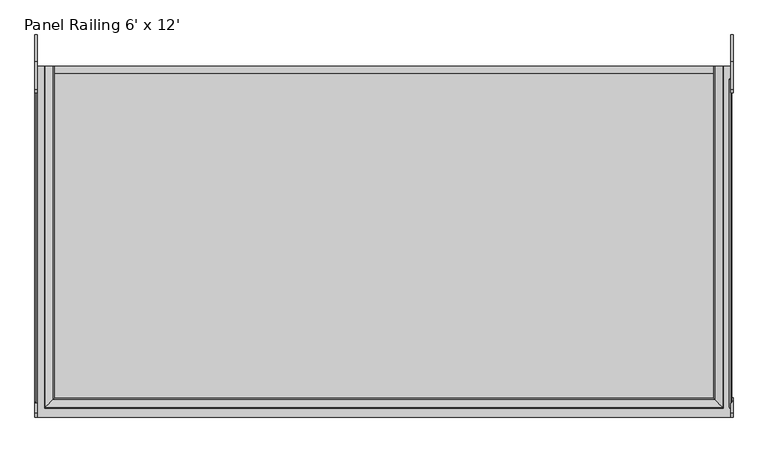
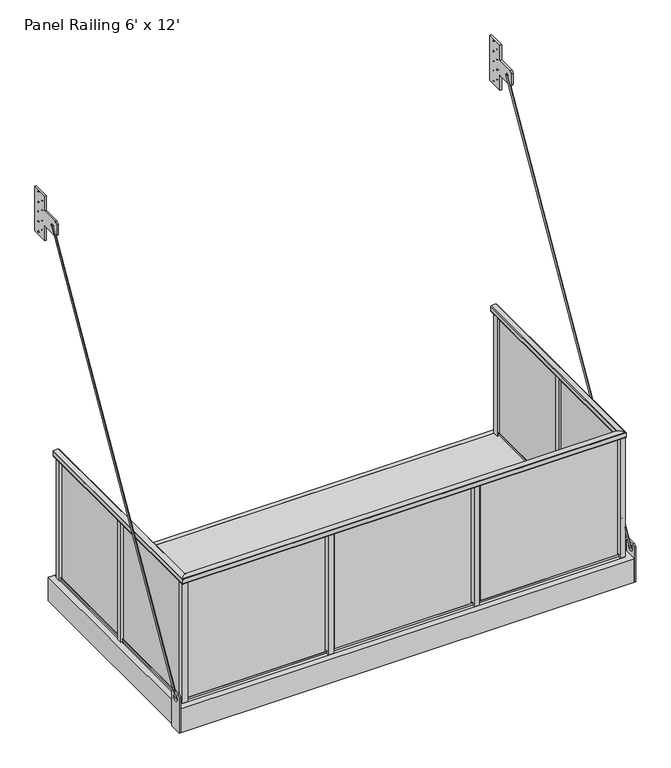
"""IFC4 building model written with IfcOpenShell, lengths in millimetres: proxy geometry, Specialty-Equipment_Endurable-Building-Products_Standard-Balcony : Panel Railing 6' x 12'."""

from ifc_helpers import new_model, si_unit, point, frame, frame_2d, origin, origin_2d, place, context, project, spatial, polyline, circle_curve, ellipse_curve, trimmed, segment, composite_curve, outline, extrude, source, transform, mapped, element, save
from ifc_brep_helpers import plane_surface, cylinder_surface, advanced_brep


def panel_railing_6_x_12_2e06ce5a(model_context):
    return source(origin(), model_context, "Body", "SolidModel", [
        extrude(outline(polyline([(25.1129964, 3238.5), (164.8129964, 3238.5), (164.8129964, 2857.5), (25.1129964, 2857.5), (25.1129964, 2984.5), (-120.9370036, 2984.5), (-139.9870036, 3003.55), (-139.9870036, 3092.45), (-120.9370036, 3111.5), (25.1129964, 3111.5), (25.1129964, 3238.5)]), holes=[composite_curve([segment(trimmed(circle_curve(frame_2d((-69.85, 3048.0)), 6.35), [point((-63.5, 3048.0))], [point((-76.2, 3048.0))], True, "CARTESIAN"), True, "CONTINUOUS"), segment(trimmed(circle_curve(frame_2d((-69.85, 3048.0)), 6.35), [point((-76.2, 3048.0))], [point((-63.5, 3048.0))], True, "CARTESIAN"), True, "CONTINUOUS")], self_intersect=False), composite_curve([segment(trimmed(circle_curve(frame_2d((120.3629964, 3048.0)), 2.38125), [point((122.7442464, 3048.0))], [point((117.9817464, 3048.0))], True, "CARTESIAN"), True, "CONTINUOUS"), segment(trimmed(circle_curve(frame_2d((120.3629964, 3048.0)), 2.38125), [point((117.9817464, 3048.0))], [point((122.7442464, 3048.0))], True, "CARTESIAN"), True, "CONTINUOUS")], self_intersect=False), composite_curve([segment(trimmed(circle_curve(frame_2d((120.3629964, 3219.45)), 2.38125), [point((122.7442464, 3219.45))], [point((117.9817464, 3219.45))], True, "CARTESIAN"), True, "CONTINUOUS"), segment(trimmed(circle_curve(frame_2d((120.3629964, 3219.45)), 2.38125), [point((117.9817464, 3219.45))], [point((122.7442464, 3219.45))], True, "CARTESIAN"), True, "CONTINUOUS")], self_intersect=False), composite_curve([segment(trimmed(circle_curve(frame_2d((120.3629964, 2876.55)), 2.38125), [point((122.7442464, 2876.55))], [point((117.9817464, 2876.55))], True, "CARTESIAN"), True, "CONTINUOUS"), segment(trimmed(circle_curve(frame_2d((120.3629964, 2876.55)), 2.38125), [point((117.9817464, 2876.55))], [point((122.7442464, 2876.55))], True, "CARTESIAN"), True, "CONTINUOUS")], self_intersect=False), composite_curve([segment(trimmed(circle_curve(frame_2d((120.3629964, 2965.45)), 2.38125), [point((122.7442464, 2965.45))], [point((117.9817464, 2965.45))], True, "CARTESIAN"), True, "CONTINUOUS"), segment(trimmed(circle_curve(frame_2d((120.3629964, 2965.45)), 2.38125), [point((117.9817464, 2965.45))], [point((122.7442464, 2965.45))], True, "CARTESIAN"), True, "CONTINUOUS")], self_intersect=False), composite_curve([segment(trimmed(circle_curve(frame_2d((120.3629964, 3130.55)), 2.38125), [point((122.7442464, 3130.55))], [point((117.9817464, 3130.55))], True, "CARTESIAN"), True, "CONTINUOUS"), segment(trimmed(circle_curve(frame_2d((120.3629964, 3130.55)), 2.38125), [point((117.9817464, 3130.55))], [point((122.7442464, 3130.55))], True, "CARTESIAN"), True, "CONTINUOUS")], self_intersect=False), composite_curve([segment(trimmed(circle_curve(frame_2d((69.5629964, 3092.45)), 2.38125), [point((71.9442464, 3092.45))], [point((67.1817464, 3092.45))], True, "CARTESIAN"), True, "CONTINUOUS"), segment(trimmed(circle_curve(frame_2d((69.5629964, 3092.45)), 2.38125), [point((67.1817464, 3092.45))], [point((71.9442464, 3092.45))], True, "CARTESIAN"), True, "CONTINUOUS")], self_intersect=False), composite_curve([segment(trimmed(circle_curve(frame_2d((69.5629964, 3175.0)), 2.38125), [point((71.9442464, 3175.0))], [point((67.1817464, 3175.0))], True, "CARTESIAN"), True, "CONTINUOUS"), segment(trimmed(circle_curve(frame_2d((69.5629964, 3175.0)), 2.38125), [point((67.1817464, 3175.0))], [point((71.9442464, 3175.0))], True, "CARTESIAN"), True, "CONTINUOUS")], self_intersect=False), composite_curve([segment(trimmed(circle_curve(frame_2d((69.5629964, 3003.55)), 2.38125), [point((71.9442464, 3003.55))], [point((67.1817464, 3003.55))], True, "CARTESIAN"), True, "CONTINUOUS"), segment(trimmed(circle_curve(frame_2d((69.5629964, 3003.55)), 2.38125), [point((67.1817464, 3003.55))], [point((71.9442464, 3003.55))], True, "CARTESIAN"), True, "CONTINUOUS")], self_intersect=False), composite_curve([segment(trimmed(circle_curve(frame_2d((69.5629964, 2921.0)), 2.38125), [point((71.9442464, 2921.0))], [point((67.1817464, 2921.0))], True, "CARTESIAN"), True, "CONTINUOUS"), segment(trimmed(circle_curve(frame_2d((69.5629964, 2921.0)), 2.38125), [point((67.1817464, 2921.0))], [point((71.9442464, 2921.0))], True, "CARTESIAN"), True, "CONTINUOUS")], self_intersect=False)]), frame((-1841.5, 0.0, 0.0), z_axis=(1.0, 0.0, 0.0), x_axis=(0.0, 1.0, 0.0)), (0.0, 0.0, 1.0), 12.7),
        extrude(outline(polyline([(25.1129964, 3238.5), (164.8129964, 3238.5), (164.8129964, 2857.5), (25.1129964, 2857.5), (25.1129964, 2984.5), (-120.9370036, 2984.5), (-139.9870036, 3003.55), (-139.9870036, 3092.45), (-120.9370036, 3111.5), (25.1129964, 3111.5), (25.1129964, 3238.5)]), holes=[composite_curve([segment(trimmed(circle_curve(frame_2d((-69.85, 3048.0)), 6.35), [point((-63.5, 3048.0))], [point((-76.2, 3048.0))], True, "CARTESIAN"), True, "CONTINUOUS"), segment(trimmed(circle_curve(frame_2d((-69.85, 3048.0)), 6.35), [point((-76.2, 3048.0))], [point((-63.5, 3048.0))], True, "CARTESIAN"), True, "CONTINUOUS")], self_intersect=False), composite_curve([segment(trimmed(circle_curve(frame_2d((120.3629964, 3048.0)), 2.38125), [point((122.7442464, 3048.0))], [point((117.9817464, 3048.0))], True, "CARTESIAN"), True, "CONTINUOUS"), segment(trimmed(circle_curve(frame_2d((120.3629964, 3048.0)), 2.38125), [point((117.9817464, 3048.0))], [point((122.7442464, 3048.0))], True, "CARTESIAN"), True, "CONTINUOUS")], self_intersect=False), composite_curve([segment(trimmed(circle_curve(frame_2d((120.3629964, 3219.45)), 2.38125), [point((122.7442464, 3219.45))], [point((117.9817464, 3219.45))], True, "CARTESIAN"), True, "CONTINUOUS"), segment(trimmed(circle_curve(frame_2d((120.3629964, 3219.45)), 2.38125), [point((117.9817464, 3219.45))], [point((122.7442464, 3219.45))], True, "CARTESIAN"), True, "CONTINUOUS")], self_intersect=False), composite_curve([segment(trimmed(circle_curve(frame_2d((120.3629964, 2876.55)), 2.38125), [point((122.7442464, 2876.55))], [point((117.9817464, 2876.55))], True, "CARTESIAN"), True, "CONTINUOUS"), segment(trimmed(circle_curve(frame_2d((120.3629964, 2876.55)), 2.38125), [point((117.9817464, 2876.55))], [point((122.7442464, 2876.55))], True, "CARTESIAN"), True, "CONTINUOUS")], self_intersect=False), composite_curve([segment(trimmed(circle_curve(frame_2d((120.3629964, 2965.45)), 2.38125), [point((122.7442464, 2965.45))], [point((117.9817464, 2965.45))], True, "CARTESIAN"), True, "CONTINUOUS"), segment(trimmed(circle_curve(frame_2d((120.3629964, 2965.45)), 2.38125), [point((117.9817464, 2965.45))], [point((122.7442464, 2965.45))], True, "CARTESIAN"), True, "CONTINUOUS")], self_intersect=False), composite_curve([segment(trimmed(circle_curve(frame_2d((120.3629964, 3130.55)), 2.38125), [point((122.7442464, 3130.55))], [point((117.9817464, 3130.55))], True, "CARTESIAN"), True, "CONTINUOUS"), segment(trimmed(circle_curve(frame_2d((120.3629964, 3130.55)), 2.38125), [point((117.9817464, 3130.55))], [point((122.7442464, 3130.55))], True, "CARTESIAN"), True, "CONTINUOUS")], self_intersect=False), composite_curve([segment(trimmed(circle_curve(frame_2d((69.5629964, 3092.45)), 2.38125), [point((71.9442464, 3092.45))], [point((67.1817464, 3092.45))], True, "CARTESIAN"), True, "CONTINUOUS"), segment(trimmed(circle_curve(frame_2d((69.5629964, 3092.45)), 2.38125), [point((67.1817464, 3092.45))], [point((71.9442464, 3092.45))], True, "CARTESIAN"), True, "CONTINUOUS")], self_intersect=False), composite_curve([segment(trimmed(circle_curve(frame_2d((69.5629964, 3175.0)), 2.38125), [point((71.9442464, 3175.0))], [point((67.1817464, 3175.0))], True, "CARTESIAN"), True, "CONTINUOUS"), segment(trimmed(circle_curve(frame_2d((69.5629964, 3175.0)), 2.38125), [point((67.1817464, 3175.0))], [point((71.9442464, 3175.0))], True, "CARTESIAN"), True, "CONTINUOUS")], self_intersect=False), composite_curve([segment(trimmed(circle_curve(frame_2d((69.5629964, 3003.55)), 2.38125), [point((71.9442464, 3003.55))], [point((67.1817464, 3003.55))], True, "CARTESIAN"), True, "CONTINUOUS"), segment(trimmed(circle_curve(frame_2d((69.5629964, 3003.55)), 2.38125), [point((67.1817464, 3003.55))], [point((71.9442464, 3003.55))], True, "CARTESIAN"), True, "CONTINUOUS")], self_intersect=False), composite_curve([segment(trimmed(circle_curve(frame_2d((69.5629964, 2921.0)), 2.38125), [point((71.9442464, 2921.0))], [point((67.1817464, 2921.0))], True, "CARTESIAN"), True, "CONTINUOUS"), segment(trimmed(circle_curve(frame_2d((69.5629964, 2921.0)), 2.38125), [point((67.1817464, 2921.0))], [point((71.9442464, 2921.0))], True, "CARTESIAN"), True, "CONTINUOUS")], self_intersect=False)]), frame((1828.8, 0.0, 0.0), z_axis=(1.0, 0.0, 0.0), x_axis=(0.0, 1.0, 0.0)), (0.0, 0.0, 1.0), 12.7),
        extrude(outline(polyline([(-1850.23125, -203.2), (-1850.23125, 96.7382813), (-1831.18125, 115.7882813), (-1767.68125, 115.7882813), (-1748.63125, 96.7382813), (-1748.63125, -203.2), (-1850.23125, -203.2)]), holes=[composite_curve([segment(trimmed(circle_curve(frame_2d((-1799.43125, 64.9882813)), 25.4), [point((-1824.83125, 64.9882813))], [point((-1774.03125, 64.9882813))], True, "CARTESIAN"), True, "CONTINUOUS"), segment(trimmed(circle_curve(frame_2d((-1799.43125, 64.9882813)), 25.4), [point((-1774.03125, 64.9882813))], [point((-1824.83125, 64.9882813))], True, "CARTESIAN"), True, "CONTINUOUS")], self_intersect=False)]), frame((-1841.5, 0.0, 0.0), z_axis=(1.0, 0.0, 0.0), x_axis=(0.0, 1.0, 0.0)), (0.0, 0.0, 1.0), 12.7),
        extrude(outline(polyline([(-1850.23125, -203.2), (-1850.23125, 96.7382812), (-1831.18125, 115.7882812), (-1767.68125, 115.7882812), (-1748.63125, 96.7382812), (-1748.63125, -203.2), (-1850.23125, -203.2)]), holes=[composite_curve([segment(trimmed(circle_curve(frame_2d((-1799.43125, 64.9882812)), 25.4), [point((-1824.83125, 64.9882812))], [point((-1774.03125, 64.9882812))], True, "CARTESIAN"), True, "CONTINUOUS"), segment(trimmed(circle_curve(frame_2d((-1799.43125, 64.9882812)), 25.4), [point((-1774.03125, 64.9882812))], [point((-1824.83125, 64.9882812))], True, "CARTESIAN"), True, "CONTINUOUS")], self_intersect=False)]), frame((1828.8, 0.0, 0.0), z_axis=(1.0, 0.0, 0.0), x_axis=(0.0, 1.0, 0.0)), (0.0, 0.0, 1.0), 12.7),
        extrude(outline(polyline([(1202.8714286, -38.1), (1202.8714286, -1799.43125), (1164.7714286, -1799.43125), (1164.7714286, -38.1), (1202.8714286, -38.1)])), frame((0.0, 0.0, -203.2), z_axis=(0.0, 0.0, 1.0), x_axis=(1.0, 0.0, 0.0)), (0.0, 0.0, 1.0), 177.8),
        extrude(outline(polyline([(729.3428571, -38.1), (729.3428571, -1799.43125), (691.2428571, -1799.43125), (691.2428571, -38.1), (729.3428571, -38.1)])), frame((0.0, 0.0, -203.2), z_axis=(0.0, 0.0, 1.0), x_axis=(1.0, 0.0, 0.0)), (0.0, 0.0, 1.0), 177.8),
        extrude(outline(polyline([(255.8142857, -38.1), (255.8142857, -1799.43125), (217.7142857, -1799.43125), (217.7142857, -38.1), (255.8142857, -38.1)])), frame((0.0, 0.0, -203.2), z_axis=(0.0, 0.0, 1.0), x_axis=(1.0, 0.0, 0.0)), (0.0, 0.0, 1.0), 177.8),
        extrude(outline(polyline([(-217.7142857, -38.1), (-217.7142857, -1799.43125), (-255.8142857, -1799.43125), (-255.8142857, -38.1), (-217.7142857, -38.1)])), frame((0.0, 0.0, -203.2), z_axis=(0.0, 0.0, 1.0), x_axis=(1.0, 0.0, 0.0)), (0.0, 0.0, 1.0), 177.8),
        extrude(outline(polyline([(-691.2428571, -38.1), (-691.2428571, -1799.43125), (-729.3428571, -1799.43125), (-729.3428571, -38.1), (-691.2428571, -38.1)])), frame((0.0, 0.0, -203.2), z_axis=(0.0, 0.0, 1.0), x_axis=(1.0, 0.0, 0.0)), (0.0, 0.0, 1.0), 177.8),
        extrude(outline(polyline([(-1164.7714286, -38.1), (-1164.7714286, -1799.43125), (-1202.8714286, -1799.43125), (-1202.8714286, -38.1), (-1164.7714286, -38.1)])), frame((0.0, 0.0, -203.2), z_axis=(0.0, 0.0, 1.0), x_axis=(1.0, 0.0, 0.0)), (0.0, 0.0, 1.0), 177.8),
        extrude(outline(polyline([(1676.4, -38.1), (1676.4, -1799.43125), (1638.3, -1799.43125), (1638.3, -38.1), (1676.4, -38.1)])), frame((0.0, 0.0, -203.2), z_axis=(0.0, 0.0, 1.0), x_axis=(1.0, 0.0, 0.0)), (0.0, 0.0, 1.0), 177.8),
        extrude(outline(polyline([(1773.2375, -80.9625), (1773.2375, -897.334375), (1757.3625, -897.334375), (1757.3625, -80.9625), (1773.2375, -80.9625)])), frame((0.0, 0.0, 9.525), z_axis=(0.0, 0.0, 1.0), x_axis=(1.0, 0.0, 0.0)), (0.0, 0.0, 1.0), 15.875),
        extrude(outline(polyline([(1773.2375, -940.196875), (1773.2375, -1756.56875), (1757.3625, -1756.56875), (1757.3625, -940.196875), (1773.2375, -940.196875)])), frame((0.0, 0.0, 9.525), z_axis=(0.0, 0.0, 1.0), x_axis=(1.0, 0.0, 0.0)), (0.0, 0.0, 1.0), 15.875),
        extrude(outline(polyline([(-1773.2375, -80.9625), (-1757.3625, -80.9625), (-1757.3625, -897.334375), (-1773.2375, -897.334375), (-1773.2375, -80.9625)])), frame((0.0, 0.0, 9.525), z_axis=(0.0, 0.0, 1.0), x_axis=(1.0, 0.0, 0.0)), (0.0, 0.0, 1.0), 15.875),
        extrude(outline(polyline([(-1773.2375, -940.196875), (-1757.3625, -940.196875), (-1757.3625, -1756.56875), (-1773.2375, -1756.56875), (-1773.2375, -940.196875)])), frame((0.0, 0.0, 9.525), z_axis=(0.0, 0.0, 1.0), x_axis=(1.0, 0.0, 0.0)), (0.0, 0.0, 1.0), 15.875),
        extrude(outline(polyline([(-567.0020833, -1770.0625), (567.0020833, -1770.0625), (567.0020833, -1785.9375), (-567.0020833, -1785.9375), (-567.0020833, -1770.0625)])), frame((0.0, 0.0, 9.525), z_axis=(0.0, 0.0, 1.0), x_axis=(1.0, 0.0, 0.0)), (0.0, 0.0, 1.0), 15.875),
        extrude(outline(polyline([(-567.0020833, -1756.56875), (-567.0020833, -1799.43125), (-609.8645833, -1799.43125), (-609.8645833, -1756.56875), (-567.0020833, -1756.56875)])), frame((0.0, 0.0, -203.2), z_axis=(0.0, 0.0, 1.0), x_axis=(1.0, 0.0, 0.0)), (0.0, 0.0, 1.0), 1219.2),
        extrude(outline(polyline([(609.8645833, -1756.56875), (609.8645833, -1799.43125), (567.0020833, -1799.43125), (567.0020833, -1756.56875), (609.8645833, -1756.56875)])), frame((0.0, 0.0, -203.2), z_axis=(0.0, 0.0, 1.0), x_axis=(1.0, 0.0, 0.0)), (0.0, 0.0, 1.0), 1219.2),
        extrude(outline(polyline([(1743.86875, -38.1), (1786.73125, -38.1), (1786.73125, -80.9625), (1743.86875, -80.9625), (1743.86875, -38.1)])), frame((0.0, 0.0, -203.2), z_axis=(0.0, 0.0, 1.0), x_axis=(1.0, 0.0, 0.0)), (0.0, 0.0, 1.0), 1219.2),
        extrude(outline(polyline([(-1743.86875, -38.1), (-1743.86875, -80.9625), (-1786.73125, -80.9625), (-1786.73125, -38.1), (-1743.86875, -38.1)])), frame((0.0, 0.0, -203.2), z_axis=(0.0, 0.0, 1.0), x_axis=(1.0, 0.0, 0.0)), (0.0, 0.0, 1.0), 1219.2),
        extrude(outline(polyline([(1786.73125, -897.334375), (1786.73125, -940.196875), (1743.86875, -940.196875), (1743.86875, -897.334375), (1786.73125, -897.334375)])), frame((0.0, 0.0, -203.2), z_axis=(0.0, 0.0, 1.0), x_axis=(1.0, 0.0, 0.0)), (0.0, 0.0, 1.0), 1219.2),
        extrude(outline(polyline([(-1743.86875, -897.334375), (-1743.86875, -940.196875), (-1786.73125, -940.196875), (-1786.73125, -897.334375), (-1743.86875, -897.334375)])), frame((0.0, 0.0, -203.2), z_axis=(0.0, 0.0, 1.0), x_axis=(1.0, 0.0, 0.0)), (0.0, 0.0, 1.0), 1219.2),
        extrude(outline(polyline([(1778.0, 0.0), (1778.0, -38.1), (-1778.0, -38.1), (-1778.0, 0.0), (1778.0, 0.0)])), frame((0.0, 0.0, -203.2), z_axis=(0.0, 0.0, 1.0), x_axis=(1.0, 0.0, 0.0)), (0.0, 0.0, 1.0), 203.2),
        extrude(outline(polyline([(-1638.3, -38.1), (-1638.3, -1799.43125), (-1676.4, -1799.43125), (-1676.4, -38.1), (-1638.3, -38.1)])), frame((0.0, 0.0, -203.2), z_axis=(0.0, 0.0, 1.0), x_axis=(1.0, 0.0, 0.0)), (0.0, 0.0, 1.0), 177.8),
        extrude(outline(polyline([(-1743.86875, -1756.56875), (-1743.86875, -1799.43125), (-1786.73125, -1799.43125), (-1786.73125, -1756.56875), (-1743.86875, -1756.56875)])), frame((0.0, 0.0, -203.2), z_axis=(0.0, 0.0, 1.0), x_axis=(1.0, 0.0, 0.0)), (0.0, 0.0, 1.0), 1219.2),
        extrude(outline(polyline([(1786.73125, -1756.56875), (1786.73125, -1799.43125), (1743.86875, -1799.43125), (1743.86875, -1756.56875), (1786.73125, -1756.56875)])), frame((0.0, 0.0, -203.2), z_axis=(0.0, 0.0, 1.0), x_axis=(1.0, 0.0, 0.0)), (0.0, 0.0, 1.0), 1219.2),
        extrude(outline(polyline([(609.8645833, -1770.0625), (1743.86875, -1770.0625), (1743.86875, -1785.9375), (609.8645833, -1785.9375), (609.8645833, -1770.0625)])), frame((0.0, 0.0, 9.525), z_axis=(0.0, 0.0, 1.0), x_axis=(1.0, 0.0, 0.0)), (0.0, 0.0, 1.0), 15.875),
        extrude(outline(polyline([(-609.8645833, -1770.0625), (-609.8645833, -1785.9375), (-1743.86875, -1785.9375), (-1743.86875, -1770.0625), (-609.8645833, -1770.0625)])), frame((0.0, 0.0, 9.525), z_axis=(0.0, 0.0, 1.0), x_axis=(1.0, 0.0, 0.0)), (0.0, 0.0, 1.0), 15.875),
        extrude(outline(polyline([(-1778.0, -1799.43125), (-1778.0, -38.1), (1778.0, -38.1), (1778.0, -1799.43125), (-1778.0, -1799.43125)])), frame((0.0, 0.0, -25.4), z_axis=(0.0, 0.0, 1.0), x_axis=(1.0, 0.0, 0.0)), (0.0, 0.0, 1.0), 25.4),
        extrude(outline(composite_curve([segment(trimmed(circle_curve(frame_2d((-6.35, 0.0)), 6.35), [point((-6.35, 6.35))], [point((-6.35, -6.35))], False, "CARTESIAN"), True, "CONTINUOUS"), segment(trimmed(circle_curve(frame_2d((-6.35, 0.0)), 6.35), [point((-6.35, -6.35))], [point((-6.35, 6.35))], False, "CARTESIAN"), True, "CONTINUOUS")], self_intersect=False)), frame((-1828.8, -1799.43125, 64.9882812), z_axis=(0.0, 0.501595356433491, 0.8651023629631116), x_axis=(1.0, 0.0, 0.0)), (0.0, 0.0, 1.0), 3448.1604102),
        extrude(outline(composite_curve([segment(trimmed(circle_curve(origin_2d(), 6.35), [point((0.0, 6.35))], [point((0.0, -6.35))], False, "CARTESIAN"), True, "CONTINUOUS"), segment(trimmed(circle_curve(origin_2d(), 6.35), [point((0.0, -6.35))], [point((0.0, 6.35))], False, "CARTESIAN"), True, "CONTINUOUS")], self_intersect=False)), frame((1828.8, -1799.43125, 64.9882812), z_axis=(0.0, 0.5015953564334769, 0.8651023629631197), x_axis=(-1.0, 0.0, 0.0)), (0.0, 0.0, 1.0), 3448.1604102),
        extrude(outline(polyline([(-1828.8, 0.0), (-1778.0, 0.0), (-1778.0, -1799.43125), (1778.0, -1799.43125), (1778.0, 0.0), (1828.8, 0.0), (1828.8, -1850.23125), (-1828.8, -1850.23125), (-1828.8, 0.0)])), frame((0.0, 0.0, -203.2), z_axis=(0.0, 0.0, 1.0), x_axis=(1.0, 0.0, 0.0)), (0.0, 0.0, 1.0), 203.2),
        extrude(outline(polyline([(-547.9520833, -1770.0625), (547.9520833, -1770.0625), (547.9520833, -1785.9375), (-547.9520833, -1785.9375), (-547.9520833, -1770.0625)])), frame((0.0, 0.0, 25.4), z_axis=(0.0, 0.0, 1.0), x_axis=(1.0, 0.0, 0.0)), (0.0, 0.0, 1.0), 990.6),
        extrude(outline(polyline([(-1771.65, -883.046875), (-1771.65, -95.25), (-1758.95, -95.25), (-1758.95, -883.046875), (-1771.65, -883.046875)])), frame((0.0, 0.0, 25.4), z_axis=(0.0, 0.0, 1.0), x_axis=(1.0, 0.0, 0.0)), (0.0, 0.0, 1.0), 990.6),
        extrude(outline(polyline([(1771.65, -883.046875), (1758.95, -883.046875), (1758.95, -95.25), (1771.65, -95.25), (1771.65, -883.046875)])), frame((0.0, 0.0, 25.4), z_axis=(0.0, 0.0, 1.0), x_axis=(1.0, 0.0, 0.0)), (0.0, 0.0, 1.0), 990.6),
        advanced_brep(
        [(1790.7, 0.0, 1056.4003287), (1790.7, 0.0, 1022.35), (1784.35, 0.0, 1016.0), (1746.25, 0.0, 1016.0), (1739.9, 0.0, 1022.35), (1739.9, 0.0, 1056.4003287), (1743.6669492, 0.0, 1062.2012207), (1786.9330508, 0.0, 1062.2012207), (-1790.7, 0.0, 1056.4003287), (-1786.9330508, 0.0, 1062.2012207), (-1743.6669492, 0.0, 1062.2012207), (-1739.9, 0.0, 1056.4003287), (-1739.9, 0.0, 1022.35), (-1746.25, 0.0, 1016.0), (-1784.35, 0.0, 1016.0), (-1790.7, 0.0, 1022.35), (1790.7, -1803.4, 1056.4003287), (1790.7, -1803.4, 1022.35), (1784.35, -1797.05, 1016.0), (-1784.35, -1797.05, 1016.0), (-1746.25, -1758.95, 1016.0), (1746.25, -1758.95, 1016.0), (1739.9, -1752.6, 1022.35), (1739.9, -1752.6, 1056.4003287), (1743.6669492, -1756.3669492, 1062.2012207), (1786.9330508, -1799.6330508, 1062.2012207), (-1790.7, -1803.4, 1056.4003287), (-1790.7, -1803.4, 1022.35), (-1739.9, -1752.6, 1022.35), (-1739.9, -1752.6, 1056.4003287), (-1743.6669492, -1756.3669492, 1062.2012207), (-1786.9330508, -1799.6330508, 1062.2012207)],
        [
            (0, 1),
            (1, 2, circle_curve(frame((1784.35, 0.0, 1022.35), z_axis=(0.0, 1.0, 0.0), x_axis=(1.0, 0.0, 0.0)), 6.35)),
            (2, 3),
            (3, 4, circle_curve(frame((1746.25, 0.0, 1022.35), z_axis=(0.0, 1.0, 0.0), x_axis=(1.0, 0.0, 0.0)), 6.35)),
            (4, 5),
            (5, 6, circle_curve(frame((1746.25, 0.0, 1056.4003287), z_axis=(0.0, 1.0, 0.0), x_axis=(1.0, 0.0, 0.0)), 6.35)),
            (6, 7, circle_curve(frame((1765.3, 0.0, 1013.61875), z_axis=(0.0, 1.0, 0.0), x_axis=(1.0, 0.0, 0.0)), 53.18125)),
            (7, 0, circle_curve(frame((1784.35, 0.0, 1056.4003287), z_axis=(0.0, 1.0, 0.0), x_axis=(1.0, 0.0, 0.0)), 6.35)),
            (8, 9, circle_curve(frame((-1784.35, 0.0, 1056.4003287), z_axis=(0.0, 1.0, 0.0), x_axis=(-1.0, 0.0, 0.0)), 6.35)),
            (9, 10, circle_curve(frame((-1765.3, 0.0, 1013.61875), z_axis=(0.0, 1.0, 0.0), x_axis=(-1.0, 0.0, 0.0)), 53.18125)),
            (10, 11, circle_curve(frame((-1746.25, 0.0, 1056.4003287), z_axis=(0.0, 1.0, 0.0), x_axis=(-1.0, 0.0, 0.0)), 6.35)),
            (11, 12),
            (12, 13, circle_curve(frame((-1746.25, 0.0, 1022.35), z_axis=(0.0, 1.0, 0.0), x_axis=(-1.0, 0.0, 0.0)), 6.35)),
            (13, 14),
            (14, 15, circle_curve(frame((-1784.35, 0.0, 1022.35), z_axis=(0.0, 1.0, 0.0), x_axis=(-1.0, 0.0, 0.0)), 6.35)),
            (15, 8),
            (0, 16),
            (16, 17),
            (17, 1),
            (17, 18, ellipse_curve(frame((1784.35, -1797.05, 1022.35), z_axis=(0.7071067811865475, 0.7071067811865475, 0.0), x_axis=(-0.7071067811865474, 0.7071067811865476, 0.0)), 8.9802561, 6.35)),
            (18, 2),
            (18, 19),
            (19, 14),
            (13, 20),
            (20, 21),
            (21, 3),
            (21, 22, ellipse_curve(frame((1746.25, -1758.95, 1022.35), z_axis=(0.7071067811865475, 0.7071067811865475, 0.0), x_axis=(-0.7071067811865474, 0.7071067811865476, 0.0)), 8.9802561, 6.35)),
            (22, 4),
            (22, 23),
            (23, 5),
            (23, 24, ellipse_curve(frame((1746.25, -1758.95, 1056.4003287), z_axis=(0.7071067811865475, 0.7071067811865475, 0.0), x_axis=(-0.7071067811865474, 0.7071067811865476, 0.0)), 8.9802561, 6.35)),
            (24, 6),
            (24, 25, ellipse_curve(frame((1765.3, -1778.0, 1013.61875), z_axis=(0.7071067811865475, 0.7071067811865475, 0.0), x_axis=(-0.7071067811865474, 0.7071067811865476, 0.0)), 75.209645, 53.18125)),
            (25, 7),
            (25, 16, ellipse_curve(frame((1784.35, -1797.05, 1056.4003287), z_axis=(0.7071067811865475, 0.7071067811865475, 0.0), x_axis=(-0.7071067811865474, 0.7071067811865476, 0.0)), 8.9802561, 6.35)),
            (16, 26),
            (26, 27),
            (27, 17),
            (27, 19, ellipse_curve(frame((-1784.35, -1797.05, 1022.35), z_axis=(0.7071067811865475, -0.7071067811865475, 0.0), x_axis=(0.7071067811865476, 0.7071067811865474, 0.0)), 8.9802561, 6.35)),
            (20, 28, ellipse_curve(frame((-1746.25, -1758.95, 1022.35), z_axis=(0.7071067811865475, -0.7071067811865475, 0.0), x_axis=(0.7071067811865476, 0.7071067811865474, 0.0)), 8.9802561, 6.35)),
            (28, 22),
            (28, 29),
            (29, 23),
            (29, 30, ellipse_curve(frame((-1746.25, -1758.95, 1056.4003287), z_axis=(0.7071067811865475, -0.7071067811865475, 0.0), x_axis=(0.7071067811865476, 0.7071067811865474, 0.0)), 8.9802561, 6.35)),
            (30, 24),
            (30, 31, ellipse_curve(frame((-1765.3, -1778.0, 1013.61875), z_axis=(0.7071067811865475, -0.7071067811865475, 0.0), x_axis=(0.7071067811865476, 0.7071067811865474, 0.0)), 75.209645, 53.18125)),
            (31, 25),
            (31, 26, ellipse_curve(frame((-1784.35, -1797.05, 1056.4003287), z_axis=(0.7071067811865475, -0.7071067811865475, 0.0), x_axis=(0.7071067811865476, 0.7071067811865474, 0.0)), 8.9802561, 6.35)),
            (26, 8),
            (15, 27),
            (12, 28),
            (11, 29),
            (10, 30),
            (9, 31),
        ],
        [
            plane_surface(frame((1765.3, 0.0, 0.0), z_axis=(0.0, 1.0, 0.0), x_axis=(0.0, 0.0, 1.0))),
            plane_surface(frame((-1765.3, 0.0, 0.0), z_axis=(0.0, 1.0, 0.0), x_axis=(0.0, 0.0, 1.0))),
            plane_surface(frame((1790.7, 0.0, 1056.4003287), z_axis=(1.0, 0.0, 0.0), x_axis=(0.0, -1.0, 0.0))),
            cylinder_surface(frame((1784.35, 0.0, 1022.35), z_axis=(0.0, 1.0, 0.0), x_axis=(1.0, 0.0, 0.0)), 6.35),
            plane_surface(frame((1784.35, 0.0, 1016.0), z_axis=(0.0, 0.0, -1.0), x_axis=(0.0, -1.0, 0.0))),
            cylinder_surface(frame((1746.25, 0.0, 1022.35), z_axis=(0.0, 1.0, 0.0), x_axis=(1.0, 0.0, 0.0)), 6.35),
            plane_surface(frame((1739.9, 0.0, 1022.35), z_axis=(-1.0, 0.0, 0.0), x_axis=(0.0, -1.0, 0.0))),
            cylinder_surface(frame((1746.25, 0.0, 1056.4003287), z_axis=(0.0, 1.0, 0.0), x_axis=(1.0, 0.0, 0.0)), 6.35),
            cylinder_surface(frame((1765.3, 0.0, 1013.61875), z_axis=(0.0, 1.0, 0.0), x_axis=(1.0, 0.0, 0.0)), 53.18125),
            cylinder_surface(frame((1784.35, 0.0, 1056.4003287), z_axis=(0.0, 1.0, 0.0), x_axis=(1.0, 0.0, 0.0)), 6.35),
            plane_surface(frame((1790.7, -1803.4, 1056.4003287), z_axis=(0.0, -1.0, 0.0), x_axis=(-1.0, 0.0, 0.0))),
            cylinder_surface(frame((1765.3, -1797.05, 1022.35), z_axis=(1.0, 0.0, 0.0), x_axis=(0.0, -1.0, 0.0)), 6.35),
            cylinder_surface(frame((1765.3, -1758.95, 1022.35), z_axis=(1.0, 0.0, 0.0), x_axis=(0.0, -1.0, 0.0)), 6.35),
            plane_surface(frame((1739.9, -1752.6, 1022.35), z_axis=(0.0, 1.0, 0.0), x_axis=(-1.0, 0.0, 0.0))),
            cylinder_surface(frame((1765.3, -1758.95, 1056.4003287), z_axis=(1.0, 0.0, 0.0), x_axis=(0.0, -1.0, 0.0)), 6.35),
            cylinder_surface(frame((1765.3, -1778.0, 1013.61875), z_axis=(1.0, 0.0, 0.0), x_axis=(0.0, -1.0, 0.0)), 53.18125),
            cylinder_surface(frame((1765.3, -1797.05, 1056.4003287), z_axis=(1.0, 0.0, 0.0), x_axis=(0.0, -1.0, 0.0)), 6.35),
            plane_surface(frame((-1790.7, -1803.4, 1056.4003287), z_axis=(-1.0, 0.0, 0.0), x_axis=(0.0, 1.0, 0.0))),
            cylinder_surface(frame((-1784.35, -1778.0, 1022.35), z_axis=(0.0, -1.0, 0.0), x_axis=(-1.0, 0.0, 0.0)), 6.35),
            cylinder_surface(frame((-1746.25, -1778.0, 1022.35), z_axis=(0.0, -1.0, 0.0), x_axis=(-1.0, 0.0, 0.0)), 6.35),
            plane_surface(frame((-1739.9, -1752.6, 1022.35), z_axis=(1.0, 0.0, 0.0), x_axis=(0.0, 1.0, 0.0))),
            cylinder_surface(frame((-1746.25, -1778.0, 1056.4003287), z_axis=(0.0, -1.0, 0.0), x_axis=(-1.0, 0.0, 0.0)), 6.35),
            cylinder_surface(frame((-1765.3, -1778.0, 1013.61875), z_axis=(0.0, -1.0, 0.0), x_axis=(-1.0, 0.0, 0.0)), 53.18125),
            cylinder_surface(frame((-1784.35, -1778.0, 1056.4003287), z_axis=(0.0, -1.0, 0.0), x_axis=(-1.0, 0.0, 0.0)), 6.35),
        ],
        [
            (0, [[1, 2, 3, 4, 5, 6, 7, 8]]),
            (1, [[9, 10, 11, 12, 13, 14, 15, 16]]),
            (2, [[-1, 17, 18, 19]]),
            (3, [[-2, -19, 20, 21]]),
            (4, [[-3, -21, 22, 23, -14, 24, 25, 26]]),
            (5, [[-4, -26, 27, 28]]),
            (6, [[-5, -28, 29, 30]]),
            (7, [[-6, -30, 31, 32]]),
            (8, [[-7, -32, 33, 34]]),
            (9, [[-8, -34, 35, -17]]),
            (10, [[-18, 36, 37, 38]]),
            (11, [[-20, -38, 39, -22]]),
            (12, [[-27, -25, 40, 41]]),
            (13, [[-29, -41, 42, 43]]),
            (14, [[-31, -43, 44, 45]]),
            (15, [[-33, -45, 46, 47]]),
            (16, [[-35, -47, 48, -36]]),
            (17, [[-37, 49, -16, 50]]),
            (18, [[-39, -50, -15, -23]]),
            (19, [[-40, -24, -13, 51]]),
            (20, [[-42, -51, -12, 52]]),
            (21, [[-44, -52, -11, 53]]),
            (22, [[-46, -53, -10, 54]]),
            (23, [[-48, -54, -9, -49]]),
        ],
    ),
        extrude(outline(polyline([(628.9145833, -1785.9375), (628.9145833, -1770.0625), (1729.58125, -1770.0625), (1729.58125, -1785.9375), (628.9145833, -1785.9375)])), frame((0.0, 0.0, 25.4), z_axis=(0.0, 0.0, 1.0), x_axis=(1.0, 0.0, 0.0)), (0.0, 0.0, 1.0), 990.6),
        extrude(outline(polyline([(-1729.58125, -1770.0625), (-628.9145833, -1770.0625), (-628.9145833, -1785.9375), (-1729.58125, -1785.9375), (-1729.58125, -1770.0625)])), frame((0.0, 0.0, 25.4), z_axis=(0.0, 0.0, 1.0), x_axis=(1.0, 0.0, 0.0)), (0.0, 0.0, 1.0), 990.6),
        extrude(outline(polyline([(1771.65, -954.484375), (1771.65, -1742.28125), (1758.95, -1742.28125), (1758.95, -954.484375), (1771.65, -954.484375)])), frame((0.0, 0.0, 25.4), z_axis=(0.0, 0.0, 1.0), x_axis=(1.0, 0.0, 0.0)), (0.0, 0.0, 1.0), 990.6),
        extrude(outline(polyline([(-1758.95, -954.484375), (-1758.95, -1742.28125), (-1771.65, -1742.28125), (-1771.65, -954.484375), (-1758.95, -954.484375)])), frame((0.0, 0.0, 25.4), z_axis=(0.0, 0.0, 1.0), x_axis=(1.0, 0.0, 0.0)), (0.0, 0.0, 1.0), 990.6),
    ])


if __name__ == "__main__":
    model = new_model("IFC4")
    model_context = context("Model", 3, world=origin())
    ifc_project = project(units=[si_unit("LENGTHUNIT", "METRE", prefix="MILLI")], contexts=[model_context])
    site = spatial("IfcSite", under=ifc_project)
    building = spatial("IfcBuilding", under=site)
    placement = place(None, origin())
    panel_railing_6_x_12_shape = panel_railing_6_x_12_2e06ce5a(model_context)
    element("IfcBuildingElementProxy", 1, Name="Specialty-Equipment_Endurable-Building-Products_Standard-Balcony : Panel Railing 6' x 12'", ObjectType="Specialty-Equipment_Endurable-Building-Products_Standard-Balcony : Panel Railing 6' x 12'", at=placement, inside=building, context=model_context, shape_type="MappedRepresentation", body=[
        mapped(panel_railing_6_x_12_shape, transform((0.0, 0.0, 0.0), x_axis=(1.0, 0.0, 0.0), y_axis=(0.0, 1.0, 0.0), z_axis=(0.0, 0.0, 1.0))),
    ])
    save(model, "model.ifc")
